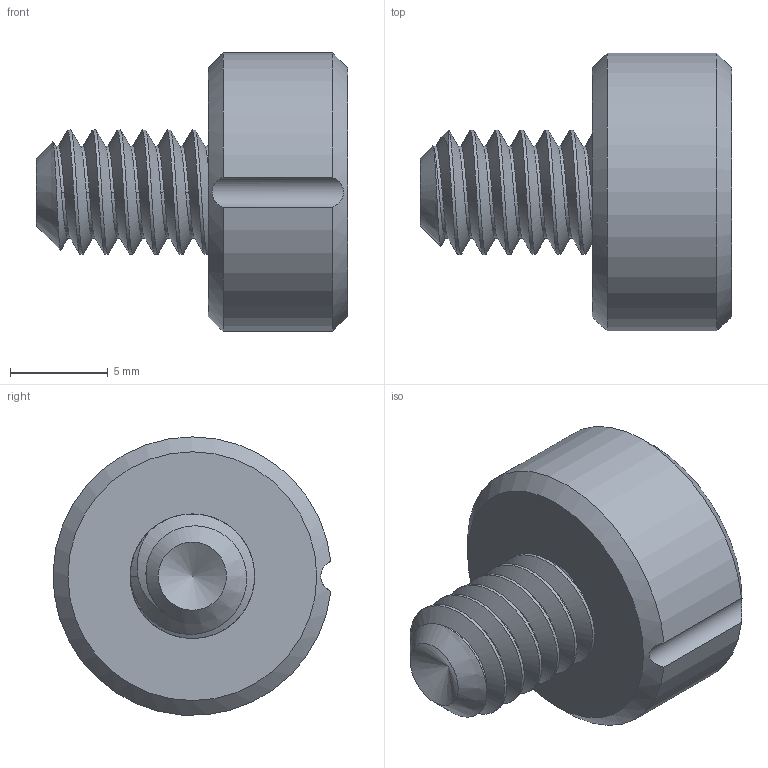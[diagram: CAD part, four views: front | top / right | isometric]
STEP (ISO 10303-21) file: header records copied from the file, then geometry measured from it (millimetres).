
FILE_DESCRIPTION(/* description */ (''),/* implementation_level */ '2;1');
FILE_NAME(/* name */ 'MAGH-RING.step',/* time_stamp */ '2024-07-05T13:57:13-05:00',/* author */ (''),/* organization */ (''),/* preprocessor_version */ 'ST-DEVELOPER v20',/* originating_system */ 'Autodesk Translation Framework v13.14.0.145',/* authorisation */ '');
FILE_SCHEMA (('AUTOMOTIVE_DESIGN { 1 0 10303 214 3 1 1 }'));
Length unit declared in the file: millimetre
Products named in the file (4): MAGH-RING; 92313A539_STD MAGH 5/8 Cup-Point Set Screw; R1008D45H - MAGH RING MAGNET; RING-CYL-MAG-HLDR
Assembly tree (3 placements, depth 2):
  MAGH-RING
    92313A539_STD MAGH 5/8 Cup-Point Set Screw
    R1008D45H - MAGH RING MAGNET
    RING-CYL-MAG-HLDR
Bounding box: 15.88 x 14.18 x 14.21 mm (x, y, z)
Volume: 1231.7 mm3; surface area: 1568.4 mm2
Topology: 3 solids, 3 shells, 68 faces, 167 edges, 105 vertices
Faces by surface type: cylinder 31, plane 18, cone 13, torus 4, bspline 2
Full cylindrical faces by diameter (mm): 4.7 x11, 5.116 x1, 6.35 x10, 7.569 x1, 11.963 x1, 12.04 x1
Entity records: 4142 total; most frequent: CARTESIAN_POINT 2548, ORIENTED_EDGE 330, DIRECTION 289, EDGE_CURVE 165, AXIS2_PLACEMENT_3D 118, VERTEX_POINT 105, EDGE_LOOP 74, FACE_OUTER_BOUND 68
